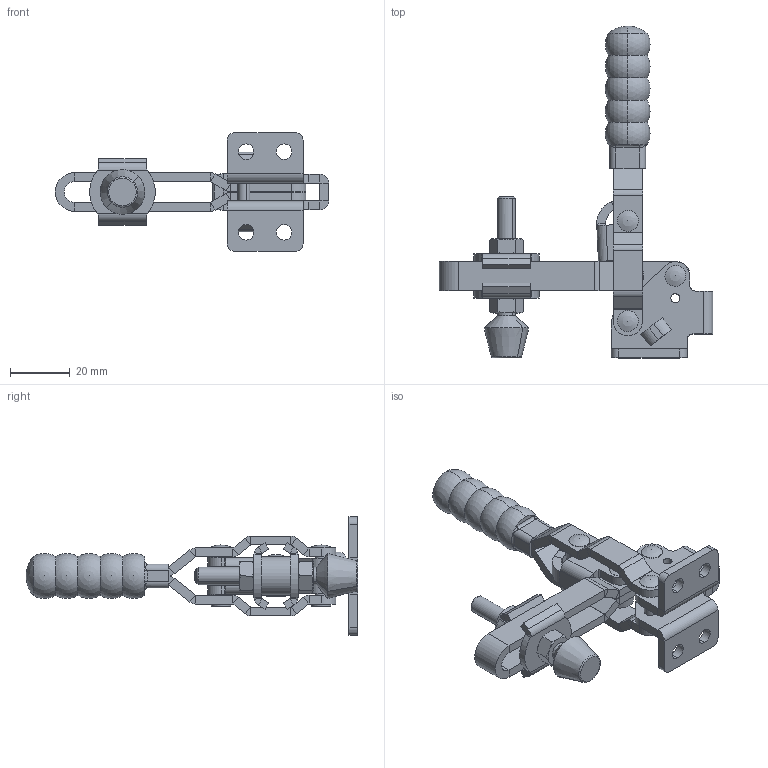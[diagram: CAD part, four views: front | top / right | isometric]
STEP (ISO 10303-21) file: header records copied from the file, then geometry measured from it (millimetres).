
FILE_DESCRIPTION (( 'STEP AP214' ), '1' );
FILE_NAME ('ISK-HV2530-UL.STEP', '2015-07-24T05:21:10', ( '' ), ( '' ), 'SwSTEP 2.0', 'SolidWorks 2015', '' );
FILE_SCHEMA (( 'AUTOMOTIVE_DESIGN' ));
Length unit declared in the file: millimetre
Products named in the file (11): Grip; Link; Handle; Arm; Base; ISK-HV2530-UL; Rivet_Φ4×12; hexagon nut_2_jis_JIS B 1181 Hexagon nut - Class 2 Finished M6 --N; Washer_D6-15; Rubber bolt_M6×40; Rivet_Φ4×18
Assembly tree (15 placements, depth 2):
  ISK-HV2530-UL
    Base
    Arm
    Handle  x2
    Link
    Grip
    Rivet_Φ4×12  x2
    Rivet_Φ4×18  x2
    Rubber bolt_M6×40
    Washer_D6-15  x2
    hexagon nut_2_jis_JIS B 1181 Hexagon nut - Class 2 Finished M6 --N  x2
Bounding box: 91.6 x 111.22 x 39.7 mm (x, y, z)
Volume: 29475.3 mm3; surface area: 26364.2 mm2
Topology: 15 solids, 15 shells, 521 faces, 1187 edges, 692 vertices
Faces by surface type: plane 256, cylinder 175, cone 38, torus 22, sphere 16, bspline 14
Entity records: 11614 total; most frequent: CARTESIAN_POINT 2388, DIRECTION 1958, ORIENTED_EDGE 1728, EDGE_CURVE 864, AXIS2_PLACEMENT_3D 753, VERTEX_POINT 507, VECTOR 452, LINE 452
